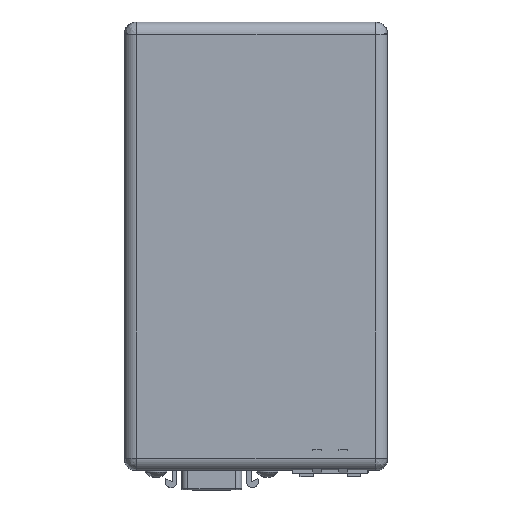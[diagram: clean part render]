
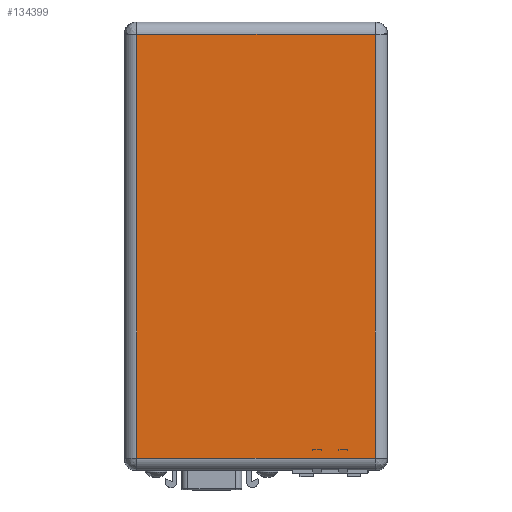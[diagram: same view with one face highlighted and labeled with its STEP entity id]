
A CAD part, top view. The second image highlights one B-rep face of the part: STEP entity #134399.
In plain terms, the highlighted planar face has unit normal (0, 0, 1).
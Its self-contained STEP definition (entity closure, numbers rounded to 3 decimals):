
#7045 = EDGE_CURVE ( 'NONE', #152953, #163733, #78016, .T. ) ;
#26947 = ORIENTED_EDGE ( 'NONE', *, *, #147541, .T. ) ;
#30187 = LINE ( 'NONE', #146152, #137883 ) ;
#32573 = VERTEX_POINT ( 'NONE', #146334 ) ;
#63860 = CARTESIAN_POINT ( 'NONE',  ( 25.298, -71.018, 15.3 ) ) ;
#69730 = CARTESIAN_POINT ( 'NONE',  ( 25.298, 18.948, 15.3 ) ) ;
#72148 = VERTEX_POINT ( 'NONE', #172529 ) ;
#78016 = LINE ( 'NONE', #129121, #112459 ) ;
#82274 = VECTOR ( 'NONE', #166910, 1000. ) ;
#84483 = DIRECTION ( 'NONE',  ( 1., 0., 0. ) ) ;
#97867 = DIRECTION ( 'NONE',  ( 0., -1., 0. ) ) ;
#100050 = ORIENTED_EDGE ( 'NONE', *, *, #136263, .T. ) ;
#111509 = PLANE ( 'NONE',  #130699 ) ;
#112459 = VECTOR ( 'NONE', #128372, 1000. ) ;
#120075 = FACE_OUTER_BOUND ( 'NONE', #121089, .T. ) ;
#121089 = EDGE_LOOP ( 'NONE', ( #26947, #100050, #124115, #163391 ) ) ;
#124115 = ORIENTED_EDGE ( 'NONE', *, *, #7045, .T. ) ;
#125606 = CARTESIAN_POINT ( 'NONE',  ( 25.298, 18.948, 15.3 ) ) ;
#128372 = DIRECTION ( 'NONE',  ( 0., 1., 0. ) ) ;
#129121 = CARTESIAN_POINT ( 'NONE',  ( 25.298, 18.948, 15.3 ) ) ;
#130699 = AXIS2_PLACEMENT_3D ( 'NONE', #69730, #171331, #84483 ) ;
#134399 = ADVANCED_FACE ( 'NONE', ( #120075 ), #111509, .T. ) ;
#136255 = CARTESIAN_POINT ( 'NONE',  ( 25.298, -71.018, 15.3 ) ) ;
#136263 = EDGE_CURVE ( 'NONE', #72148, #152953, #159628, .T. ) ;
#137883 = VECTOR ( 'NONE', #160561, 1000. ) ;
#146152 = CARTESIAN_POINT ( 'NONE',  ( 25.298, 18.948, 15.3 ) ) ;
#146334 = CARTESIAN_POINT ( 'NONE',  ( -25.298, 18.948, 15.3 ) ) ;
#147541 = EDGE_CURVE ( 'NONE', #32573, #72148, #176400, .T. ) ;
#152953 = VERTEX_POINT ( 'NONE', #136255 ) ;
#159628 = LINE ( 'NONE', #63860, #82274 ) ;
#160561 = DIRECTION ( 'NONE',  ( -1., 0., 0. ) ) ;
#163391 = ORIENTED_EDGE ( 'NONE', *, *, #167354, .T. ) ;
#163733 = VERTEX_POINT ( 'NONE', #125606 ) ;
#166910 = DIRECTION ( 'NONE',  ( 1., 0., 0. ) ) ;
#167354 = EDGE_CURVE ( 'NONE', #163733, #32573, #30187, .T. ) ;
#167548 = VECTOR ( 'NONE', #97867, 1000. ) ;
#170009 = CARTESIAN_POINT ( 'NONE',  ( -25.298, 18.948, 15.3 ) ) ;
#171331 = DIRECTION ( 'NONE',  ( 0., 0., 1. ) ) ;
#172529 = CARTESIAN_POINT ( 'NONE',  ( -25.298, -71.018, 15.3 ) ) ;
#176400 = LINE ( 'NONE', #170009, #167548 ) ;
